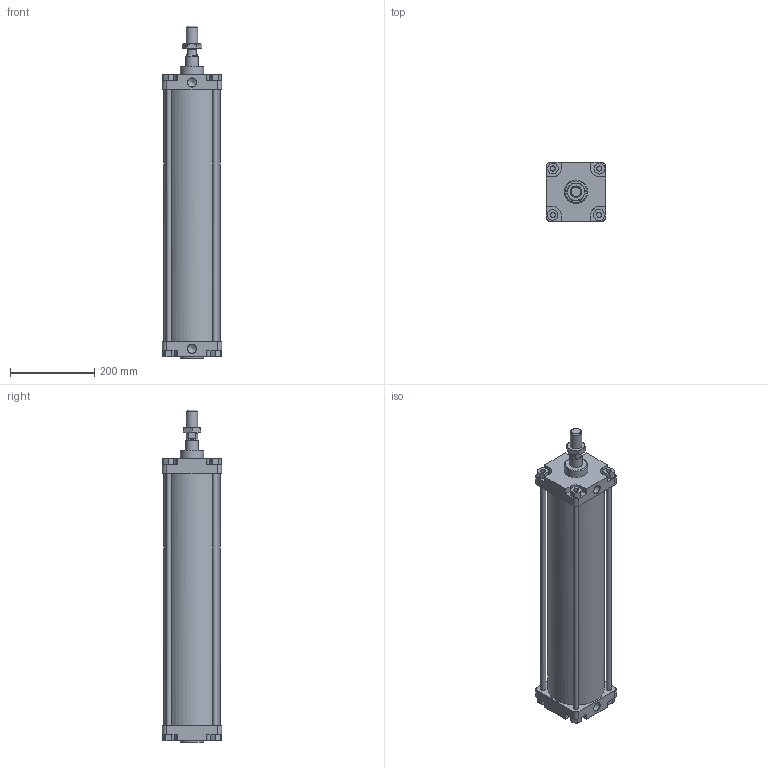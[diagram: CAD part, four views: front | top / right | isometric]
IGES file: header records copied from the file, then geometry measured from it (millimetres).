
Global section: file name: 1305_125_0500_01A; native system: Autodesk Inventor 2014; preprocessor: unknown; author: A. Manieri; date: 20161124.143335; units: millimetre
Bounding box: 140 x 140 x 786 mm (x, y, z)
Volume: 4179747.8 mm3; surface area: 850374.8 mm2
Topology: 9 solids, 9 shells, 175 faces, 440 edges, 295 vertices
Faces by surface type: bspline 175
